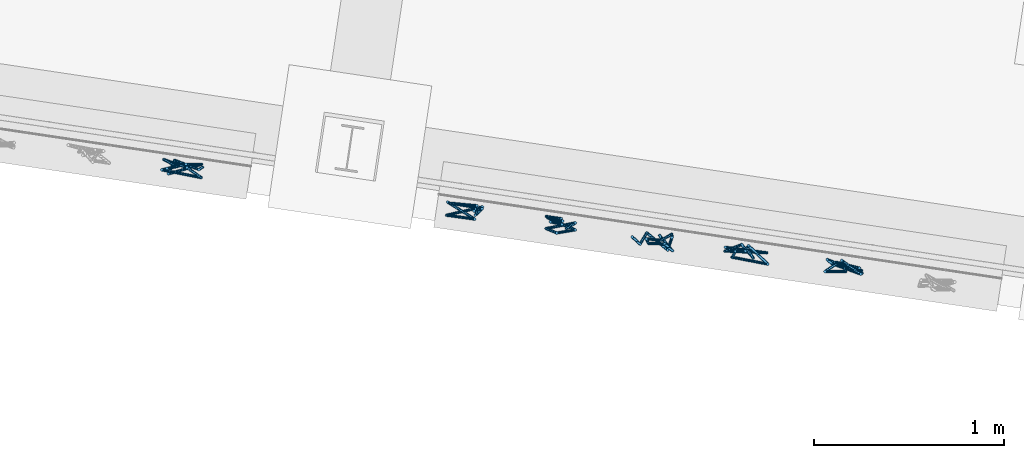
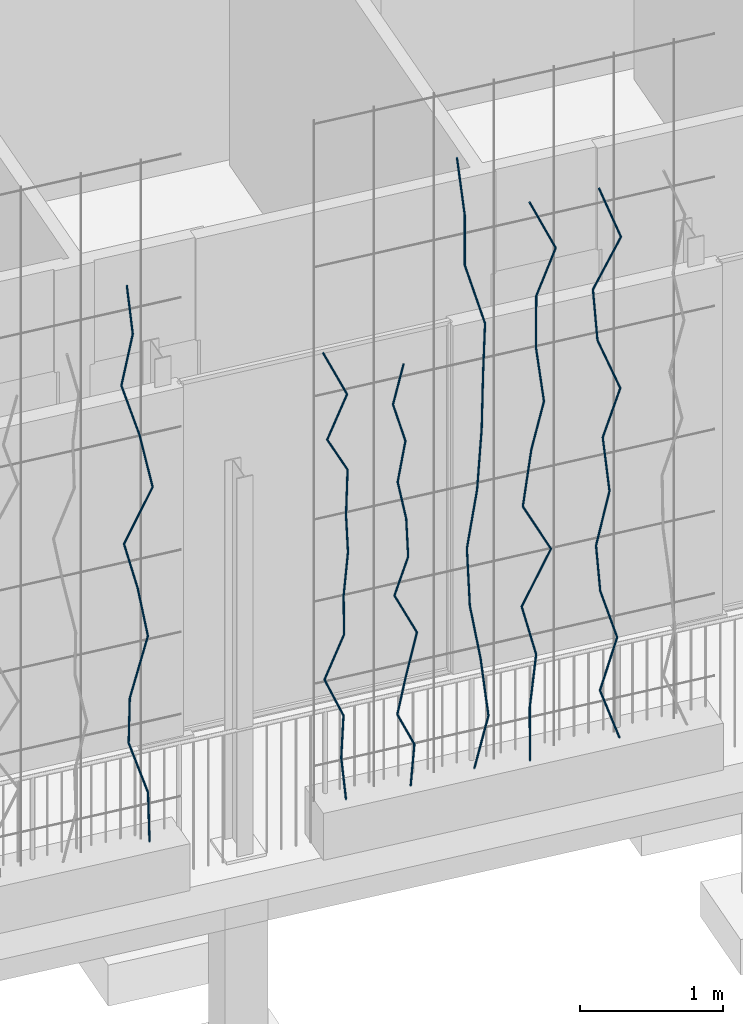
# One storey, part 119 of 142: 66 members, 1 element without a shape of its own.
"""IFC4 building model written with IfcOpenShell, lengths in metres."""

from ifc_helpers import new_model, si_unit, direction, frame, origin_with_axes, place, context, subcontext, project, spatial, circle, extrude, material, material_profile, profile_set, profile_usage, type_object, element, aggregate, save


model = new_model("IFC4")

# Units and contexts
model_context = context("Model", 3, precision=1e-05, world=origin_with_axes(), true_north=direction((0.0, 1.0)))
body_context = subcontext(model_context, "Body", "Model", "MODEL_VIEW")
ifc_project = project(units=[si_unit("AREAUNIT", "SQUARE_METRE"), si_unit("VOLUMEUNIT", "CUBIC_METRE"), si_unit("LENGTHUNIT", "METRE")], contexts=[model_context])

# Site, building, storey
site_placement = place(None, origin_with_axes())
site = spatial("IfcSite", under=ifc_project, at=site_placement, Name="Lares · Rua das Mercês · artigo 4771")
building_placement = place(site_placement, frame((15.0, 9.7, 14.65), z_axis=(0.0, 0.0, 1.0), x_axis=(0.989015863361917, -0.147809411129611, 0.0)))
building = spatial("IfcBuilding", under=site, at=building_placement, Name="Casa Sobreposta")
storey_placement = place(building_placement, origin_with_axes())
storey = spatial("IfcBuildingStorey", under=building, at=storey_placement, Name="00 · Habitação e estacionamento", Elevation=14.65)

# Assembly, members
assembly_placement = place(storey_placement, origin_with_axes())
assembly = element("IfcElementAssembly", 1, at=assembly_placement, inside=storey, Name="Fachada sul e pátio · estrutura e trepadeiras", ObjectType="LIVING_SHADE_TRELLIS", PredefinedType="USERDEFINED")
ifc_material = material(Name="Ramos de trepadeiras", Category="wood")
ifc_material_profile = material_profile(ifc_material, circle(Radius=0.0075))
ifc_profile_set = profile_set([ifc_material_profile], Name="D0.015")
ifc_profile_usage_1 = profile_usage(ifc_profile_set)
member_type = type_object("IfcMemberType", Name="D0.015 / vine_wood", PredefinedType="NOTDEFINED", material=ifc_profile_set)
member_1_placement = place(assembly_placement, frame((11.248102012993, -1.65190370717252, 0.35), z_axis=(-0.0386935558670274, -0.034357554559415, 0.998660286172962), x_axis=(-0.663967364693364, 0.747761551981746, 0.0)))
member_1 = element("IfcMember", 2, at=member_1_placement, type_object=member_type, material=ifc_profile_usage_1, Name="Trepadeiras · ramo", context=body_context, shape_type="SweptSolid", body=[
    extrude(circle(Radius=0.0075), origin_with_axes(), (0.0, 0.0, 1.0), 0.438063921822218),
])
ifc_profile_usage_2 = profile_usage(ifc_profile_set)
member_2_placement = place(assembly_placement, frame((11.2311517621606, -1.66695451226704, 0.787477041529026), z_axis=(-0.292111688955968, 0.0645743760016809, 0.954201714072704), x_axis=(0.215849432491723, 0.976426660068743, 0.0)))
member_2 = element("IfcMember", 3, at=member_2_placement, type_object=member_type, material=ifc_profile_usage_2, Name="Trepadeiras · ramo", context=body_context, shape_type="SweptSolid", body=[
    extrude(circle(Radius=0.0075), origin_with_axes(), (0.0, 0.0, 1.0), 0.458474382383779),
])
ifc_profile_usage_3 = profile_usage(ifc_profile_set)
member_3_placement = place(assembly_placement, frame((11.0972260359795, -1.63734881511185, 1.22495408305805), z_axis=(-0.0480043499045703, -0.17064406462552, 0.984162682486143), x_axis=(-0.962635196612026, 0.270801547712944, 0.0)))
member_3 = element("IfcMember", 4, at=member_3_placement, type_object=member_type, material=ifc_profile_usage_3, Name="Trepadeiras · ramo", context=body_context, shape_type="SweptSolid", body=[
    extrude(circle(Radius=0.0075), origin_with_axes(), (0.0, 0.0, 1.0), 0.44451699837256),
])
ifc_profile_usage_4 = profile_usage(ifc_profile_set)
member_4_placement = place(assembly_placement, frame((11.0758872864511, -1.71320300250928, 1.66243112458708), z_axis=(0.349610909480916, 0.159453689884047, 0.923226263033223), x_axis=(0.414966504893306, -0.909836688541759, 0.0)))
member_4 = element("IfcMember", 5, at=member_4_placement, type_object=member_type, material=ifc_profile_usage_4, Name="Trepadeiras · ramo", context=body_context, shape_type="SweptSolid", body=[
    extrude(circle(Radius=0.0075), origin_with_axes(), (0.0, 0.0, 1.0), 0.473856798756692),
])
ifc_profile_usage_5 = profile_usage(ifc_profile_set)
member_5_placement = place(assembly_placement, frame((11.2415527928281, -1.63764478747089, 2.09990816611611), z_axis=(-0.183712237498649, -0.026320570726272, 0.982627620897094), x_axis=(-0.141822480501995, 0.989892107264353, 0.0)))
member_5 = element("IfcMember", 6, at=member_5_placement, type_object=member_type, material=ifc_profile_usage_5, Name="Trepadeiras · ramo", context=body_context, shape_type="SweptSolid", body=[
    extrude(circle(Radius=0.0075), origin_with_axes(), (0.0, 0.0, 1.0), 0.445211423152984),
])
ifc_profile_usage_6 = profile_usage(ifc_profile_set)
member_6_placement = place(assembly_placement, frame((11.1597620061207, -1.64936300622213, 2.53738520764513), z_axis=(-0.265224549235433, -0.105236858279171, 0.958426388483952), x_axis=(-0.368812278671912, 0.92950390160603, 0.0)))
member_6 = element("IfcMember", 7, at=member_6_placement, type_object=member_type, material=ifc_profile_usage_6, Name="Trepadeiras · ramo", context=body_context, shape_type="SweptSolid", body=[
    extrude(circle(Radius=0.0075), origin_with_axes(), (0.0, 0.0, 1.0), 0.456453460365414),
])
ifc_profile_usage_7 = profile_usage(ifc_profile_set)
member_7_placement = place(assembly_placement, frame((11.0386993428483, -1.69739873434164, 2.97486224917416), z_axis=(0.434271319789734, -0.0200254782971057, 0.900559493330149), x_axis=(-0.0460638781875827, -0.998938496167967, 0.0)))
member_7 = element("IfcMember", 8, at=member_7_placement, type_object=member_type, material=ifc_profile_usage_7, Name="Trepadeiras · ramo", context=body_context, shape_type="SweptSolid", body=[
    extrude(circle(Radius=0.0075), origin_with_axes(), (0.0, 0.0, 1.0), 0.485783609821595),
])
ifc_profile_usage_8 = profile_usage(ifc_profile_set)
member_8_placement = place(assembly_placement, frame((11.2496612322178, -1.70712678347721, 3.41233929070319), z_axis=(-0.183988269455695, 0.092285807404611, 0.97858655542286), x_axis=(0.448346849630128, 0.893859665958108, 0.0)))
member_8 = element("IfcMember", 9, at=member_8_placement, type_object=member_type, material=ifc_profile_usage_8, Name="Trepadeiras · ramo", context=body_context, shape_type="SweptSolid", body=[
    extrude(circle(Radius=0.0075), origin_with_axes(), (0.0, 0.0, 1.0), 0.447049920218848),
])
ifc_profile_usage_9 = profile_usage(ifc_profile_set)
member_9_placement = place(assembly_placement, frame((11.1674092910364, -1.66587042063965, 3.84981633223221), z_axis=(-0.277576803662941, 0.0517158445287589, 0.959310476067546), x_axis=(0.183160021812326, 0.983083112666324, 0.0)))
member_9 = element("IfcMember", 10, at=member_9_placement, type_object=member_type, material=ifc_profile_usage_9, Name="Trepadeiras · ramo", context=body_context, shape_type="SweptSolid", body=[
    extrude(circle(Radius=0.0075), origin_with_axes(), (0.0, 0.0, 1.0), 0.456032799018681),
])
ifc_profile_usage_10 = profile_usage(ifc_profile_set)
member_10_placement = place(assembly_placement, frame((11.0408251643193, -1.64228629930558, 4.28729337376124), z_axis=(0.169074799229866, -0.0585839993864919, 0.983860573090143), x_axis=(-0.327400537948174, -0.944885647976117, 0.0)))
member_10 = element("IfcMember", 11, at=member_10_placement, type_object=member_type, material=ifc_profile_usage_10, Name="Trepadeiras · ramo", context=body_context, shape_type="SweptSolid", body=[
    extrude(circle(Radius=0.0075), origin_with_axes(), (0.0, 0.0, 1.0), 0.444653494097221),
])
ifc_profile_usage_11 = profile_usage(ifc_profile_set)
member_11_placement = place(assembly_placement, frame((11.1160048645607, -1.66833587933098, 4.72477041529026), z_axis=(-0.117255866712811, -0.0408900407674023, 0.992259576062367), x_axis=(-0.32927761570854, 0.944233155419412, 6.93059025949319e-18)))
member_11 = element("IfcMember", 12, at=member_11_placement, type_object=member_type, material=ifc_profile_usage_11, Name="Trepadeiras · ramo", context=body_context, shape_type="SweptSolid", body=[
    extrude(circle(Radius=0.0075), origin_with_axes(), (0.0, 0.0, 1.0), 0.440889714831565),
])
ifc_profile_usage_12 = profile_usage(ifc_profile_set)
member_12_placement = place(assembly_placement, frame((12.7127933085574, -1.67677360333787, 0.35), z_axis=(-0.0708595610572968, 0.0849373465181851, 0.993863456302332), x_axis=(0.767872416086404, 0.640602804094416, 0.0)))
member_12 = element("IfcMember", 13, at=member_12_placement, type_object=member_type, material=ifc_profile_usage_12, Name="Trepadeiras · ramo", context=body_context, shape_type="SweptSolid", body=[
    extrude(circle(Radius=0.0075), origin_with_axes(), (0.0, 0.0, 1.0), 0.350241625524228),
])
ifc_profile_usage_13 = profile_usage(ifc_profile_set)
member_13_placement = place(assembly_placement, frame((12.6879753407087, -1.64702500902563, 0.698092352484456), z_axis=(0.057899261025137, 0.0226262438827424, 0.998065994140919), x_axis=(0.363980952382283, -0.931406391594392, 0.0)))
member_13 = element("IfcMember", 14, at=member_13_placement, type_object=member_type, material=ifc_profile_usage_13, Name="Trepadeiras · ramo", context=body_context, shape_type="SweptSolid", body=[
    extrude(circle(Radius=0.0075), origin_with_axes(), (0.0, 0.0, 1.0), 0.348766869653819),
])
ifc_profile_usage_14 = profile_usage(ifc_profile_set)
member_14_placement = place(assembly_placement, frame((12.7081686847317, -1.63913372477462, 1.04618470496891), z_axis=(-0.385457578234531, -0.0204208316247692, 0.922499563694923), x_axis=(-0.0529039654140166, 0.998599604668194, 0.0)))
member_14 = element("IfcMember", 15, at=member_14_placement, type_object=member_type, material=ifc_profile_usage_14, Name="Trepadeiras · ramo", context=body_context, shape_type="SweptSolid", body=[
    extrude(circle(Radius=0.0075), origin_with_axes(), (0.0, 0.0, 1.0), 0.377336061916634),
])
ifc_profile_usage_15 = profile_usage(ifc_profile_set)
member_15_placement = place(assembly_placement, frame((12.5627216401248, -1.64683924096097, 1.39427705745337), z_axis=(0.386179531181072, -0.00507439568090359, 0.922409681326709), x_axis=(-0.0131388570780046, -0.9999136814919, 0.0)))
member_15 = element("IfcMember", 16, at=member_15_placement, type_object=member_type, material=ifc_profile_usage_15, Name="Trepadeiras · ramo", context=body_context, shape_type="SweptSolid", body=[
    extrude(circle(Radius=0.0075), origin_with_axes(), (0.0, 0.0, 1.0), 0.377372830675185),
])
ifc_profile_usage_16 = profile_usage(ifc_profile_set)
member_16_placement = place(assembly_placement, frame((12.7084553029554, -1.64875418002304, 1.74236940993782), z_axis=(-0.0306176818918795, -0.0562072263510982, 0.997949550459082), x_axis=(-0.878163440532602, 0.478360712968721, 0.0)))
member_16 = element("IfcMember", 17, at=member_16_placement, type_object=member_type, material=ifc_profile_usage_16, Name="Trepadeiras · ramo", context=body_context, shape_type="SweptSolid", body=[
    extrude(circle(Radius=0.0075), origin_with_axes(), (0.0, 0.0, 1.0), 0.348807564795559),
])
ifc_profile_usage_17 = profile_usage(ifc_profile_set)
member_17_placement = place(assembly_placement, frame((12.697775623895, -1.66835968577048, 2.09046176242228), z_axis=(0.112899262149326, 0.0509051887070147, 0.992301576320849), x_axis=(0.411039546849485, -0.911617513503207, 0.0)))
member_17 = element("IfcMember", 18, at=member_17_placement, type_object=member_type, material=ifc_profile_usage_17, Name="Trepadeiras · ramo", context=body_context, shape_type="SweptSolid", body=[
    extrude(circle(Radius=0.0075), origin_with_axes(), (0.0, 0.0, 1.0), 0.350792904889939),
])
ifc_profile_usage_18 = profile_usage(ifc_profile_set)
member_18_placement = place(assembly_placement, frame((12.7373798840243, -1.65050250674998, 2.43855411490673), z_axis=(-0.0853498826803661, -0.110841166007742, 0.990166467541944), x_axis=(-0.792321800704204, 0.610103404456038, 0.0)))
member_18 = element("IfcMember", 19, at=member_18_placement, type_object=member_type, material=ifc_profile_usage_18, Name="Trepadeiras · ramo", context=body_context, shape_type="SweptSolid", body=[
    extrude(circle(Radius=0.0075), origin_with_axes(), (0.0, 0.0, 1.0), 0.351549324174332),
])
ifc_profile_usage_19 = profile_usage(ifc_profile_set)
member_19_placement = place(assembly_placement, frame((12.7073751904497, -1.68946864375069, 2.78664646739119), z_axis=(0.0869008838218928, 0.137266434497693, 0.986714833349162), x_axis=(0.844915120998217, -0.534900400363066, 0.0)))
member_19 = element("IfcMember", 20, at=member_19_placement, type_object=member_type, material=ifc_profile_usage_19, Name="Trepadeiras · ramo", context=body_context, shape_type="SweptSolid", body=[
    extrude(circle(Radius=0.0075), origin_with_axes(), (0.0, 0.0, 1.0), 0.352779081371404),
])
ifc_profile_usage_20 = profile_usage(ifc_profile_set)
member_20_placement = place(assembly_placement, frame((12.7380320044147, -1.64104391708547, 3.13473881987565), z_axis=(-0.45311315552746, -0.178326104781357, 0.873434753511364), x_axis=(-0.366216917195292, 0.930529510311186, 0.0)))
member_20 = element("IfcMember", 21, at=member_20_placement, type_object=member_type, material=ifc_profile_usage_20, Name="Trepadeiras · ramo", context=body_context, shape_type="SweptSolid", body=[
    extrude(circle(Radius=0.0075), origin_with_axes(), (0.0, 0.0, 1.0), 0.398532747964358),
])
ifc_profile_usage_21 = profile_usage(ifc_profile_set)
member_21_placement = place(assembly_placement, frame((12.5574515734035, -1.71211270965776, 3.4828311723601), z_axis=(0.394669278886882, 0.00436643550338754, 0.918812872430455), x_axis=(0.0110628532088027, -0.999938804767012, 0.0)))
member_21 = element("IfcMember", 22, at=member_21_placement, type_object=member_type, material=ifc_profile_usage_21, Name="Trepadeiras · ramo", context=body_context, shape_type="SweptSolid", body=[
    extrude(circle(Radius=0.0075), origin_with_axes(), (0.0, 0.0, 1.0), 0.378850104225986),
])
ifc_profile_usage_22 = profile_usage(ifc_profile_set)
member_22_placement = place(assembly_placement, frame((12.7069720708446, -1.71045848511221, 3.83092352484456), z_axis=(-0.397772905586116, 0.174983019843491, 0.900642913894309), x_axis=(0.40266716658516, 0.915346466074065, 0.0)))
member_22 = element("IfcMember", 23, at=member_22_placement, type_object=member_type, material=ifc_profile_usage_22, Name="Trepadeiras · ramo", context=body_context, shape_type="SweptSolid", body=[
    extrude(circle(Radius=0.0075), origin_with_axes(), (0.0, 0.0, 1.0), 0.386493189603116),
])
ifc_profile_usage_23 = profile_usage(ifc_profile_set)
member_23_placement = place(assembly_placement, frame((13.1925460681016, -1.68798436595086, 0.35), z_axis=(0.129026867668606, 0.110183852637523, 0.985500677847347), x_axis=(0.64939521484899, -0.760451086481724, 0.0)))
member_23 = element("IfcMember", 24, at=member_23_placement, type_object=member_type, material=ifc_profile_usage_23, Name="Trepadeiras · ramo", context=body_context, shape_type="SweptSolid", body=[
    extrude(circle(Radius=0.0075), origin_with_axes(), (0.0, 0.0, 1.0), 0.330027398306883),
])
ifc_profile_usage_24 = profile_usage(ifc_profile_set)
member_24_placement = place(assembly_placement, frame((13.23512846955, -1.65162067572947, 0.67524222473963), z_axis=(-0.411476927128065, -0.144758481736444, 0.899850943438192), x_axis=(-0.33186451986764, 0.943327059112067, 0.0)))
member_24 = element("IfcMember", 25, at=member_24_placement, type_object=member_type, material=ifc_profile_usage_24, Name="Trepadeiras · ramo", context=body_context, shape_type="SweptSolid", body=[
    extrude(circle(Radius=0.0075), origin_with_axes(), (0.0, 0.0, 1.0), 0.36144011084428),
])
ifc_profile_usage_25 = profile_usage(ifc_profile_set)
member_25_placement = place(assembly_placement, frame((13.0864042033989, -1.70394219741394, 1.00048444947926), z_axis=(0.179994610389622, -0.0444622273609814, 0.982662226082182), x_axis=(-0.239811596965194, -0.970819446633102, 0.0)))
member_25 = element("IfcMember", 26, at=member_25_placement, type_object=member_type, material=ifc_profile_usage_25, Name="Trepadeiras · ramo", context=body_context, shape_type="SweptSolid", body=[
    extrude(circle(Radius=0.0075), origin_with_axes(), (0.0, 0.0, 1.0), 0.330980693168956),
])
ifc_profile_usage_26 = profile_usage(ifc_profile_set)
member_26_placement = place(assembly_placement, frame((13.1459789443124, -1.71865833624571, 1.32572667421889), z_axis=(0.276463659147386, 0.0892506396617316, 0.956871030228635), x_axis=(0.307217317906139, -0.951639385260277, 0.0)))
member_26 = element("IfcMember", 27, at=member_26_placement, type_object=member_type, material=ifc_profile_usage_26, Name="Trepadeiras · ramo", context=body_context, shape_type="SweptSolid", body=[
    extrude(circle(Radius=0.0075), origin_with_axes(), (0.0, 0.0, 1.0), 0.339901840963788),
])
ifc_profile_usage_27 = profile_usage(ifc_profile_set)
member_27_placement = place(assembly_placement, frame((13.2399494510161, -1.68832187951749, 1.65096889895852), z_axis=(-0.421792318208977, 0.114762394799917, 0.899400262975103), x_axis=(0.262538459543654, 0.964921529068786, 0.0)))
member_27 = element("IfcMember", 28, at=member_27_placement, type_object=member_type, material=ifc_profile_usage_27, Name="Trepadeiras · ramo", context=body_context, shape_type="SweptSolid", body=[
    extrude(circle(Radius=0.0075), origin_with_axes(), (0.0, 0.0, 1.0), 0.361621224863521),
])
ifc_profile_usage_28 = profile_usage(ifc_profile_set)
member_28_placement = place(assembly_placement, frame((13.0874203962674, -1.64682136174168, 1.97621112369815), z_axis=(0.271964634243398, -0.0801035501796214, 0.958967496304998), x_axis=(-0.282536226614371, -0.959256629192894, 0.0)))
member_28 = element("IfcMember", 29, at=member_28_placement, type_object=member_type, material=ifc_profile_usage_28, Name="Trepadeiras · ramo", context=body_context, shape_type="SweptSolid", body=[
    extrude(circle(Radius=0.0075), origin_with_axes(), (0.0, 0.0, 1.0), 0.339158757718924),
])
ifc_profile_usage_29 = profile_usage(ifc_profile_set)
member_29_placement = place(assembly_placement, frame((13.1796595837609, -1.67398918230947, 2.30145334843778), z_axis=(-0.040604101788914, 0.0113517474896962, 0.999110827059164), x_axis=(0.999175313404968, 0.000461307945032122, 0.0406014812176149)))
member_29 = element("IfcMember", 30, at=member_29_placement, type_object=member_type, material=ifc_profile_usage_29, Name="Trepadeiras · ramo", context=body_context, shape_type="SweptSolid", body=[
    extrude(circle(Radius=0.0075), origin_with_axes(), (0.0, 0.0, 1.0), 0.325531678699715),
])
ifc_profile_usage_30 = profile_usage(ifc_profile_set)
member_30_placement = place(assembly_placement, frame((13.1664416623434, -1.67029382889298, 2.62669557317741), z_axis=(-0.187987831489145, 0.0134038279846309, 0.982079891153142), x_axis=(0.0711210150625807, 0.997467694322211, 0.0)))
member_30 = element("IfcMember", 31, at=member_30_placement, type_object=member_type, material=ifc_profile_usage_30, Name="Trepadeiras · ramo", context=body_context, shape_type="SweptSolid", body=[
    extrude(circle(Radius=0.0075), origin_with_axes(), (0.0, 0.0, 1.0), 0.33117695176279),
])
ifc_profile_usage_31 = profile_usage(ifc_profile_set)
member_31_placement = place(assembly_placement, frame((13.1041844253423, -1.66585478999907, 2.95193779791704), z_axis=(0.191647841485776, 0.0413064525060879, 0.980594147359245), x_axis=(0.210694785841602, -0.977551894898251, 0.0)))
member_31 = element("IfcMember", 32, at=member_31_placement, type_object=member_type, material=ifc_profile_usage_31, Name="Trepadeiras · ramo", context=body_context, shape_type="SweptSolid", body=[
    extrude(circle(Radius=0.0075), origin_with_axes(), (0.0, 0.0, 1.0), 0.331678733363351),
])
ifc_profile_usage_32 = profile_usage(ifc_profile_set)
member_32_placement = place(assembly_placement, frame((13.1677499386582, -1.65215431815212, 3.27718002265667), z_axis=(-0.263247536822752, 0.0336082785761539, 0.964142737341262), x_axis=(0.126640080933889, 0.991948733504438, 0.0)))
member_32 = element("IfcMember", 33, at=member_32_placement, type_object=member_type, material=ifc_profile_usage_32, Name="Trepadeiras · ramo", context=body_context, shape_type="SweptSolid", body=[
    extrude(circle(Radius=0.0075), origin_with_axes(), (0.0, 0.0, 1.0), 0.337338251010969),
])
ifc_profile_usage_33 = profile_usage(ifc_profile_set)
member_33_placement = place(assembly_placement, frame((13.0789464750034, -1.64081696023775, 3.6024222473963), z_axis=(0.237284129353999, -0.000512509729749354, 0.97144015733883), x_axis=(-0.00215989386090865, -0.999997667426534, -5.54838557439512e-20)))
member_33 = element("IfcMember", 34, at=member_33_placement, type_object=member_type, material=ifc_profile_usage_33, Name="Trepadeiras · ramo", context=body_context, shape_type="SweptSolid", body=[
    extrude(circle(Radius=0.0075), origin_with_axes(), (0.0, 0.0, 1.0), 0.334804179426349),
])
ifc_profile_usage_34 = profile_usage(ifc_profile_set)
member_34_placement = place(assembly_placement, frame((13.68386961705, -1.65181034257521, 0.35), z_axis=(0.161421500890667, -0.142844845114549, 0.976492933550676), x_axis=(-0.662701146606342, -0.748883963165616, 0.0)))
member_34 = element("IfcMember", 35, at=member_34_placement, type_object=member_type, material=ifc_profile_usage_34, Name="Trepadeiras · ramo", context=body_context, shape_type="SweptSolid", body=[
    extrude(circle(Radius=0.0075), origin_with_axes(), (0.0, 0.0, 1.0), 0.489888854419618),
])
ifc_profile_usage_35 = profile_usage(ifc_profile_set)
member_35_placement = place(assembly_placement, frame((13.7629482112, -1.72178844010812, 0.828373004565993), z_axis=(-0.0969288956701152, 0.0636689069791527, 0.993252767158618), x_axis=(0.54901392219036, 0.835813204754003, 0.0)))
member_35 = element("IfcMember", 36, at=member_35_placement, type_object=member_type, material=ifc_profile_usage_35, Name="Trepadeiras · ramo", context=body_context, shape_type="SweptSolid", body=[
    extrude(circle(Radius=0.0075), origin_with_axes(), (0.0, 0.0, 1.0), 0.481622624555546),
])
ifc_profile_usage_36 = profile_usage(ifc_profile_set)
member_36_placement = place(assembly_placement, frame((13.7162650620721, -1.69112405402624, 1.30674600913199), z_axis=(-0.174459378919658, -0.0213396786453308, 0.984433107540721), x_axis=(-0.121413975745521, 0.992601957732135, 0.0)))
member_36 = element("IfcMember", 37, at=member_36_placement, type_object=member_type, material=ifc_profile_usage_36, Name="Trepadeiras · ramo", context=body_context, shape_type="SweptSolid", body=[
    extrude(circle(Radius=0.0075), origin_with_axes(), (0.0, 0.0, 1.0), 0.485937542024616),
])
ifc_profile_usage_37 = profile_usage(ifc_profile_set)
member_37_placement = place(assembly_placement, frame((13.6314887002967, -1.70149380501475, 1.78511901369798), z_axis=(-0.0282536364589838, 0.0454968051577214, 0.998564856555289), x_axis=(0.849521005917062, 0.527554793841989, 0.0)))
member_37 = element("IfcMember", 38, at=member_37_placement, type_object=member_type, material=ifc_profile_usage_37, Name="Trepadeiras · ramo", context=body_context, shape_type="SweptSolid", body=[
    extrude(circle(Radius=0.0075), origin_with_axes(), (0.0, 0.0, 1.0), 0.479060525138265),
])
ifc_profile_usage_38 = profile_usage(ifc_profile_set)
member_38_placement = place(assembly_placement, frame((13.6179534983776, -1.67969808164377, 2.26349201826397), z_axis=(0.161830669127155, 0.00911167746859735, 0.986776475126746), x_axis=(0.0562147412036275, -0.99841870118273, 0.0)))
member_38 = element("IfcMember", 39, at=member_38_placement, type_object=member_type, material=ifc_profile_usage_38, Name="Trepadeiras · ramo", context=body_context, shape_type="SweptSolid", body=[
    extrude(circle(Radius=0.0075), origin_with_axes(), (0.0, 0.0, 1.0), 0.484783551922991),
])
ifc_profile_usage_39 = profile_usage(ifc_profile_set)
member_39_placement = place(assembly_placement, frame((13.6964063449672, -1.67528089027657, 2.74186502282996), z_axis=(0.103521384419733, 0.0829303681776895, 0.991163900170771), x_axis=(0.625215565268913, -0.78045211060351, 0.0)))
member_39 = element("IfcMember", 40, at=member_39_placement, type_object=member_type, material=ifc_profile_usage_39, Name="Trepadeiras · ramo", context=body_context, shape_type="SweptSolid", body=[
    extrude(circle(Radius=0.0075), origin_with_axes(), (0.0, 0.0, 1.0), 0.482637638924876),
])
ifc_profile_usage_40 = profile_usage(ifc_profile_set)
member_40_placement = place(assembly_placement, frame((13.7463696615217, -1.63525557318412, 3.22023802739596), z_axis=(0.00716802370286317, -0.0369485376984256, 0.999291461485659), x_axis=(0.999974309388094, 0.000264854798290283, -0.00716312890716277)))
member_40 = element("IfcMember", 41, at=member_40_placement, type_object=member_type, material=ifc_profile_usage_40, Name="Trepadeiras · ramo", context=body_context, shape_type="SweptSolid", body=[
    extrude(circle(Radius=0.0075), origin_with_axes(), (0.0, 0.0, 1.0), 0.478712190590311),
])
ifc_profile_usage_41 = profile_usage(ifc_profile_set)
member_41_placement = place(assembly_placement, frame((13.7498010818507, -1.65294328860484, 3.69861103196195), z_axis=(-0.0249719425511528, -0.141403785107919, 0.98963698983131), x_axis=(-0.984761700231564, 0.173909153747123, 0.0)))
member_41 = element("IfcMember", 42, at=member_41_placement, type_object=member_type, material=ifc_profile_usage_41, Name="Trepadeiras · ramo", context=body_context, shape_type="SweptSolid", body=[
    extrude(circle(Radius=0.0075), origin_with_axes(), (0.0, 0.0, 1.0), 0.483382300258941),
])
ifc_profile_usage_42 = profile_usage(ifc_profile_set)
member_42_placement = place(assembly_placement, frame((13.7377300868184, -1.72129537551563, 4.17698403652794), z_axis=(-0.245772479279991, 0.147078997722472, 0.958104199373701), x_axis=(0.513508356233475, 0.85808459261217, 0.0)))
member_42 = element("IfcMember", 43, at=member_42_placement, type_object=member_type, material=ifc_profile_usage_42, Name="Trepadeiras · ramo", context=body_context, shape_type="SweptSolid", body=[
    extrude(circle(Radius=0.0075), origin_with_axes(), (0.0, 0.0, 1.0), 0.499291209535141),
])
ifc_profile_usage_43 = profile_usage(ifc_profile_set)
member_43_placement = place(assembly_placement, frame((13.6150180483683, -1.64786012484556, 4.65535704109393), z_axis=(-0.0539158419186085, -0.132242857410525, 0.989749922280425), x_axis=(-0.92599661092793, 0.37753182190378, 6.01122396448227e-18)))
member_43 = element("IfcMember", 44, at=member_43_placement, type_object=member_type, material=ifc_profile_usage_43, Name="Trepadeiras · ramo", context=body_context, shape_type="SweptSolid", body=[
    extrude(circle(Radius=0.0075), origin_with_axes(), (0.0, 0.0, 1.0), 0.483327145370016),
])
ifc_profile_usage_44 = profile_usage(ifc_profile_set)
member_44_placement = place(assembly_placement, frame((13.5889590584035, -1.71177668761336, 5.13373004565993), z_axis=(-0.0954146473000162, 0.0639742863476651, 0.993379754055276), x_axis=(0.556895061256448, 0.830582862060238, 0.0)))
member_44 = element("IfcMember", 45, at=member_44_placement, type_object=member_type, material=ifc_profile_usage_44, Name="Trepadeiras · ramo", context=body_context, shape_type="SweptSolid", body=[
    extrude(circle(Radius=0.0075), origin_with_axes(), (0.0, 0.0, 1.0), 0.481561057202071),
])
ifc_profile_usage_45 = profile_usage(ifc_profile_set)
member_45_placement = place(assembly_placement, frame((14.0801023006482, -1.70934968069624, 0.35), z_axis=(0.0242468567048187, 0.0771941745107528, 0.996721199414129), x_axis=(0.954043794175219, -0.299667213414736, 0.0)))
member_45 = element("IfcMember", 46, at=member_45_placement, type_object=member_type, material=ifc_profile_usage_45, Name="Trepadeiras · ramo", context=body_context, shape_type="SweptSolid", body=[
    extrude(circle(Radius=0.0075), origin_with_axes(), (0.0, 0.0, 1.0), 0.434431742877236),
])
ifc_profile_usage_46 = profile_usage(ifc_profile_set)
member_46_placement = place(assembly_placement, frame((14.0906359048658, -1.67581408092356, 0.783007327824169), z_axis=(0.120375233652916, 0.0239402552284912, 0.992439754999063), x_axis=(0.195060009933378, -0.980791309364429, 0.0)))
member_46 = element("IfcMember", 47, at=member_46_placement, type_object=member_type, material=ifc_profile_usage_46, Name="Trepadeiras · ramo", context=body_context, shape_type="SweptSolid", body=[
    extrude(circle(Radius=0.0075), origin_with_axes(), (0.0, 0.0, 1.0), 0.436305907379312),
])
ifc_profile_usage_47 = profile_usage(ifc_profile_set)
member_47_placement = place(assembly_placement, frame((14.1431563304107, -1.6653688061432, 1.21601465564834), z_axis=(-0.239967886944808, 0.00779781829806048, 0.970749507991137), x_axis=(0.0324781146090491, 0.999472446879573, 0.0)))
member_47 = element("IfcMember", 48, at=member_47_placement, type_object=member_type, material=ifc_profile_usage_47, Name="Trepadeiras · ramo", context=body_context, shape_type="SweptSolid", body=[
    extrude(circle(Radius=0.0075), origin_with_axes(), (0.0, 0.0, 1.0), 0.446054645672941),
])
ifc_profile_usage_48 = profile_usage(ifc_profile_set)
member_48_placement = place(assembly_placement, frame((14.0361175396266, -1.66189055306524, 1.64902198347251), z_axis=(0.454417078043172, 0.00664542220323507, 0.890764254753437), x_axis=(0.0146224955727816, -0.999893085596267, 0.0)))
member_48 = element("IfcMember", 49, at=member_48_placement, type_object=member_type, material=ifc_profile_usage_48, Name="Trepadeiras · ramo", context=body_context, shape_type="SweptSolid", body=[
    extrude(circle(Radius=0.0075), origin_with_axes(), (0.0, 0.0, 1.0), 0.486107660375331),
])
ifc_profile_usage_49 = profile_usage(ifc_profile_set)
member_49_placement = place(assembly_placement, frame((14.2570131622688, -1.65866016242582, 2.08202931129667), z_axis=(-0.452892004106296, -0.0486535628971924, 0.890236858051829), x_axis=(-0.106814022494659, 0.994279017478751, 0.0)))
member_49 = element("IfcMember", 50, at=member_49_placement, type_object=member_type, material=ifc_profile_usage_49, Name="Trepadeiras · ramo", context=body_context, shape_type="SweptSolid", body=[
    extrude(circle(Radius=0.0075), origin_with_axes(), (0.0, 0.0, 1.0), 0.486395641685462),
])
ifc_profile_usage_50 = profile_usage(ifc_profile_set)
member_50_placement = place(assembly_placement, frame((14.0367284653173, -1.68232504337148, 2.51503663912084), z_axis=(0.185178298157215, 0.106445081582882, 0.976922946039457), x_axis=(0.498356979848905, -0.866971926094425, 0.0)))
member_50 = element("IfcMember", 51, at=member_50_placement, type_object=member_type, material=ifc_profile_usage_50, Name="Trepadeiras · ramo", context=body_context, shape_type="SweptSolid", body=[
    extrude(circle(Radius=0.0075), origin_with_axes(), (0.0, 0.0, 1.0), 0.44323590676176),
])
ifc_profile_usage_51 = profile_usage(ifc_profile_set)
member_51_placement = place(assembly_placement, frame((14.1188061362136, -1.63514476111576, 2.94804396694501), z_axis=(0.16008716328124, -0.137571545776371, 0.977469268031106), x_axis=(-0.651757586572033, -0.758427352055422, 0.0)))
member_51 = element("IfcMember", 52, at=member_51_placement, type_object=member_type, material=ifc_profile_usage_51, Name="Trepadeiras · ramo", context=body_context, shape_type="SweptSolid", body=[
    extrude(circle(Radius=0.0075), origin_with_axes(), (0.0, 0.0, 1.0), 0.442988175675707),
])
ifc_profile_usage_52 = profile_usage(ifc_profile_set)
member_52_placement = place(assembly_placement, frame((14.1897228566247, -1.69608732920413, 3.38105129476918), z_axis=(-0.0964124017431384, 0.098577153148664, 0.990447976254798), x_axis=(0.714912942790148, 0.699213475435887, 0.0)))
member_52 = element("IfcMember", 53, at=member_52_placement, type_object=member_type, material=ifc_profile_usage_52, Name="Trepadeiras · ramo", context=body_context, shape_type="SweptSolid", body=[
    extrude(circle(Radius=0.0075), origin_with_axes(), (0.0, 0.0, 1.0), 0.437183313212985),
])
ifc_profile_usage_53 = profile_usage(ifc_profile_set)
member_53_placement = place(assembly_placement, frame((14.1475729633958, -1.65299104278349, 3.81405862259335), z_axis=(0.0181112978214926, 0.0402266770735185, 0.999026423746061), x_axis=(0.999835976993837, -0.000728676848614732, -0.0180966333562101)))
member_53 = element("IfcMember", 54, at=member_53_placement, type_object=member_type, material=ifc_profile_usage_53, Name="Trepadeiras · ramo", context=body_context, shape_type="SweptSolid", body=[
    extrude(circle(Radius=0.0075), origin_with_axes(), (0.0, 0.0, 1.0), 0.433429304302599),
])
ifc_profile_usage_54 = profile_usage(ifc_profile_set)
member_54_placement = place(assembly_placement, frame((14.1554229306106, -1.63555562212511, 4.24706595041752), z_axis=(0.251645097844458, -0.177773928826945, 0.951352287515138), x_axis=(-0.576990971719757, -0.816750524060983, 0.0)))
member_54 = element("IfcMember", 55, at=member_54_placement, type_object=member_type, material=ifc_profile_usage_54, Name="Trepadeiras · ramo", context=body_context, shape_type="SweptSolid", body=[
    extrude(circle(Radius=0.0075), origin_with_axes(), (0.0, 0.0, 1.0), 0.455149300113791),
])
ifc_profile_usage_55 = profile_usage(ifc_profile_set)
member_55_placement = place(assembly_placement, frame((14.2699590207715, -1.71646930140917, 4.68007327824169), z_axis=(-0.406842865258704, 0.0169823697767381, 0.913340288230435), x_axis=(0.0417055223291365, 0.999129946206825, 0.0)))
member_55 = element("IfcMember", 56, at=member_55_placement, type_object=member_type, material=ifc_profile_usage_55, Name="Trepadeiras · ramo", context=body_context, shape_type="SweptSolid", body=[
    extrude(circle(Radius=0.0075), origin_with_axes(), (0.0, 0.0, 1.0), 0.474092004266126),
])
ifc_profile_usage_56 = profile_usage(ifc_profile_set)
member_56_placement = place(assembly_placement, frame((14.7652704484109, -1.6778966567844, 0.35), z_axis=(-0.30796633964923, 0.052787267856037, 0.949931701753), x_axis=(0.168942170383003, 0.985625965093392, 0.0)))
member_56 = element("IfcMember", 57, at=member_56_placement, type_object=member_type, material=ifc_profile_usage_56, Name="Trepadeiras · ramo", context=body_context, shape_type="SweptSolid", body=[
    extrude(circle(Radius=0.0075), origin_with_axes(), (0.0, 0.0, 1.0), 0.450587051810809),
])
ifc_profile_usage_57 = profile_usage(ifc_profile_set)
member_57_placement = place(assembly_placement, frame((14.6265048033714, -1.654111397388, 0.778026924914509), z_axis=(0.278700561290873, -0.0263394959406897, 0.960016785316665), x_axis=(-0.0940889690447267, -0.995563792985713, 0.0)))
member_57 = element("IfcMember", 58, at=member_57_placement, type_object=member_type, material=ifc_profile_usage_57, Name="Trepadeiras · ramo", context=body_context, shape_type="SweptSolid", body=[
    extrude(circle(Radius=0.0075), origin_with_axes(), (0.0, 0.0, 1.0), 0.445853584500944),
])
ifc_profile_usage_58 = profile_usage(ifc_profile_set)
member_58_placement = place(assembly_placement, frame((14.7507644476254, -1.66585495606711, 1.20605384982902), z_axis=(-0.284107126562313, 0.00180733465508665, 0.958790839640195), x_axis=(0.00636132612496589, 0.99997976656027, 0.0)))
member_58 = element("IfcMember", 59, at=member_58_placement, type_object=member_type, material=ifc_profile_usage_58, Name="Trepadeiras · ramo", context=body_context, shape_type="SweptSolid", body=[
    extrude(circle(Radius=0.0075), origin_with_axes(), (0.0, 0.0, 1.0), 0.446423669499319),
])
ifc_profile_usage_59 = profile_usage(ifc_profile_set)
member_59_placement = place(assembly_placement, frame((14.6239323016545, -1.66504811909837, 1.63408077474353), z_axis=(-0.114140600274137, -0.105855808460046, 0.987808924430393), x_axis=(-0.679996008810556, 0.733215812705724, 0.0)))
member_59 = element("IfcMember", 60, at=member_59_placement, type_object=member_type, material=ifc_profile_usage_59, Name="Trepadeiras · ramo", context=body_context, shape_type="SweptSolid", body=[
    extrude(circle(Radius=0.0075), origin_with_axes(), (0.0, 0.0, 1.0), 0.433309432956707),
])
ifc_profile_usage_60 = profile_usage(ifc_profile_set)
member_60_placement = place(assembly_placement, frame((14.5744741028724, -1.71091643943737, 2.06210769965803), z_axis=(0.242351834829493, 0.0355919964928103, 0.96953535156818), x_axis=(0.145302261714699, -0.989387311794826, 0.0)))
member_60 = element("IfcMember", 61, at=member_60_placement, type_object=member_type, material=ifc_profile_usage_60, Name="Trepadeiras · ramo", context=body_context, shape_type="SweptSolid", body=[
    extrude(circle(Radius=0.0075), origin_with_axes(), (0.0, 0.0, 1.0), 0.441476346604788),
])
ifc_profile_usage_61 = profile_usage(ifc_profile_set)
member_61_placement = place(assembly_placement, frame((14.6814667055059, -1.69520341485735, 2.49013462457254), z_axis=(-0.0667873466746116, 0.126541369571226, 0.989710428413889), x_axis=(0.88438006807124, 0.466767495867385, 0.0)))
member_61 = element("IfcMember", 62, at=member_61_placement, type_object=member_type, material=ifc_profile_usage_61, Name="Trepadeiras · ramo", context=body_context, shape_type="SweptSolid", body=[
    extrude(circle(Radius=0.0075), origin_with_axes(), (0.0, 0.0, 1.0), 0.432476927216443),
])
ifc_profile_usage_62 = profile_usage(ifc_profile_set)
member_62_placement = place(assembly_placement, frame((14.6525827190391, -1.64047719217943, 2.91816154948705), z_axis=(0.246034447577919, -0.124841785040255, 0.961187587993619), x_axis=(-0.452496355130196, -0.891766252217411, 0.0)))
member_62 = element("IfcMember", 63, at=member_62_placement, type_object=member_type, material=ifc_profile_usage_62, Name="Trepadeiras · ramo", context=body_context, shape_type="SweptSolid", body=[
    extrude(circle(Radius=0.0075), origin_with_axes(), (0.0, 0.0, 1.0), 0.445310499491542),
])
ifc_profile_usage_63 = profile_usage(ifc_profile_set)
member_63_placement = place(assembly_placement, frame((14.7621444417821, -1.69607054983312, 3.34618847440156), z_axis=(-0.346624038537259, 0.069377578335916, 0.935434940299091), x_axis=(0.196259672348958, 0.980551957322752, 0.0)))
member_63 = element("IfcMember", 64, at=member_63_placement, type_object=member_type, material=ifc_profile_usage_63, Name="Trepadeiras · ramo", context=body_context, shape_type="SweptSolid", body=[
    extrude(circle(Radius=0.0075), origin_with_axes(), (0.0, 0.0, 1.0), 0.457569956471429),
])
ifc_profile_usage_64 = profile_usage(ifc_profile_set)
member_64_placement = place(assembly_placement, frame((14.6035396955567, -1.66432545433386, 3.77421539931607), z_axis=(-0.0629217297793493, 0.040966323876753, 0.997177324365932), x_axis=(0.545617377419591, 0.83803441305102, 0.0)))
member_64 = element("IfcMember", 65, at=member_64_placement, type_object=member_type, material=ifc_profile_usage_64, Name="Trepadeiras · ramo", context=body_context, shape_type="SweptSolid", body=[
    extrude(circle(Radius=0.0075), origin_with_axes(), (0.0, 0.0, 1.0), 0.429238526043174),
])
ifc_profile_usage_65 = profile_usage(ifc_profile_set)
member_65_placement = place(assembly_placement, frame((14.5765312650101, -1.6467411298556, 4.20224232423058), z_axis=(0.408014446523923, -0.0961506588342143, 0.907898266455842), x_axis=(-0.229372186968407, -0.97333878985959, 0.0)))
member_65 = element("IfcMember", 66, at=member_65_placement, type_object=member_type, material=ifc_profile_usage_65, Name="Trepadeiras · ramo", context=body_context, shape_type="SweptSolid", body=[
    extrude(circle(Radius=0.0075), origin_with_axes(), (0.0, 0.0, 1.0), 0.471448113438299),
])
ifc_profile_usage_66 = profile_usage(ifc_profile_set)
member_66_placement = place(assembly_placement, frame((14.7688889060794, -1.69207117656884, 4.63026924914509), z_axis=(-0.329981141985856, 0.0809074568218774, 0.940513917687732), x_axis=(0.238134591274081, 0.971232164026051, 0.0)))
member_66 = element("IfcMember", 67, at=member_66_placement, type_object=member_type, material=ifc_profile_usage_66, Name="Trepadeiras · ramo", context=body_context, shape_type="SweptSolid", body=[
    extrude(circle(Radius=0.0075), origin_with_axes(), (0.0, 0.0, 1.0), 0.45509898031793),
])
aggregate(assembly, [member_1, member_2, member_3, member_4, member_5, member_6, member_7, member_8, member_9, member_10, member_11, member_12, member_13, member_14, member_15, member_16, member_17, member_18, member_19, member_20, member_21, member_22, member_23, member_24, member_25, member_26, member_27, member_28, member_29, member_30, member_31, member_32, member_33, member_34, member_35, member_36, member_37, member_38, member_39, member_40, member_41, member_42, member_43, member_44, member_45, member_46, member_47, member_48, member_49, member_50, member_51, member_52, member_53, member_54, member_55, member_56, member_57, member_58, member_59, member_60, member_61, member_62, member_63, member_64, member_65, member_66])

save(model, "model.ifc")
